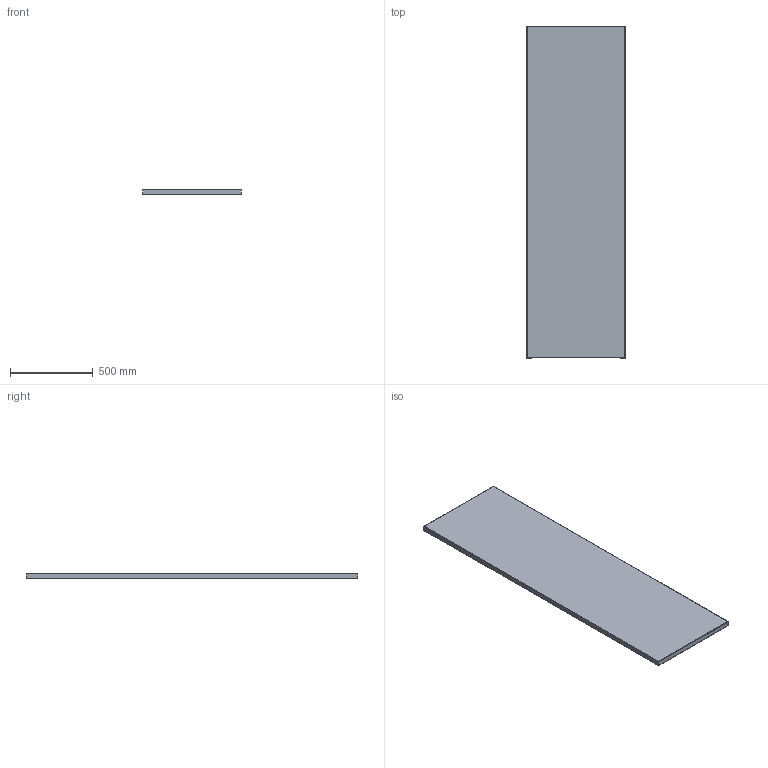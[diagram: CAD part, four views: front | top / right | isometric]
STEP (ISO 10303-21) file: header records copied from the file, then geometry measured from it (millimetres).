
FILE_DESCRIPTION((''),'2;1');
FILE_NAME('MODEL-463_ASM','2024-05-24T13:52:25',('joshi'),('SAGINAW CONTROL & ENGINEERING'),'CREO PARAMETRIC BY PTC INC, 2021284','CREO PARAMETRIC BY PTC INC, 2021284','');
FILE_SCHEMA(('AUTOMOTIVE_DESIGN { 1 0 10303 214 1 1 1 1 }'));
Length unit declared in the file: inch
Products named in the file (3): MODEL-463-END-PLT; 130515; MODEL-463_ASM
Assembly tree (2 placements, depth 2):
  MODEL-463_ASM
    MODEL-463-END-PLT
    130515
Bounding box: 596.9 x 2006.6 x 31.75 mm (x, y, z)
Volume: 2278864.6 mm3; surface area: 3000645.7 mm2
Topology: 1 solids, 1 shells, 258 faces, 704 edges, 448 vertices
Faces by surface type: cylinder 124, plane 114, bspline 20
Entity records: 11518 total; most frequent: CARTESIAN_POINT 2139, ORIENTED_EDGE 1408, DIRECTION 1374, PRESENTATION_STYLE_ASSIGNMENT 705, STYLED_ITEM 705, CURVE_STYLE 704, EDGE_CURVE 704, AXIS2_PLACEMENT_3D 467
